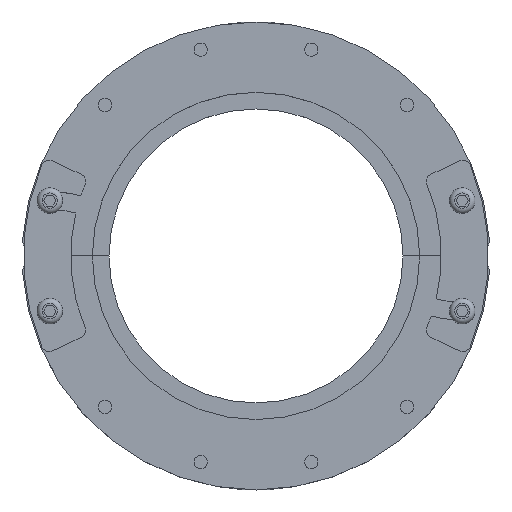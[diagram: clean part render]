
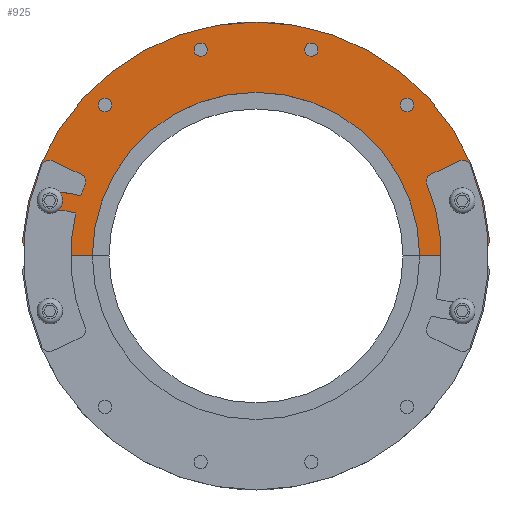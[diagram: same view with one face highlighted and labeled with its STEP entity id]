
A CAD part, top view. The second image highlights one B-rep face of the part: STEP entity #925.
In plain terms, the highlighted planar face has unit normal (0, 0, 1).
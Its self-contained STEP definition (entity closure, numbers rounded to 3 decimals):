
#925=ADVANCED_FACE('',(#2222,#2223,#2224,#2225,#2226,#2227,#2228),#1150,
 .T.);
#1150=PLANE('',#6070);
#1510=LINE('',#9033,#1914);
#1511=LINE('',#9045,#1915);
#1914=VECTOR('',#7455,1.);
#1915=VECTOR('',#7466,1.);
#2222=FACE_BOUND('',#2675,.T.);
#2223=FACE_BOUND('',#2676,.T.);
#2224=FACE_BOUND('',#2677,.T.);
#2225=FACE_BOUND('',#2678,.T.);
#2226=FACE_BOUND('',#2679,.T.);
#2227=FACE_BOUND('',#2680,.T.);
#2228=FACE_BOUND('',#2681,.T.);
#2675=EDGE_LOOP('',(#3845,#3846,#3847,#3848,#3849,#3850,#3851,#3852));
#2676=EDGE_LOOP('',(#3853));
#2677=EDGE_LOOP('',(#3854));
#2678=EDGE_LOOP('',(#3855));
#2679=EDGE_LOOP('',(#3856));
#2680=EDGE_LOOP('',(#3857));
#2681=EDGE_LOOP('',(#3858));
#3845=ORIENTED_EDGE('',*,*,#5171,.T.);
#3846=ORIENTED_EDGE('',*,*,#5172,.T.);
#3847=ORIENTED_EDGE('',*,*,#5173,.T.);
#3848=ORIENTED_EDGE('',*,*,#5174,.T.);
#3849=ORIENTED_EDGE('',*,*,#5175,.T.);
#3850=ORIENTED_EDGE('',*,*,#5176,.T.);
#3851=ORIENTED_EDGE('',*,*,#5177,.T.);
#3852=ORIENTED_EDGE('',*,*,#5178,.T.);
#3853=ORIENTED_EDGE('',*,*,#5179,.T.);
#3854=ORIENTED_EDGE('',*,*,#5180,.T.);
#3855=ORIENTED_EDGE('',*,*,#5181,.T.);
#3856=ORIENTED_EDGE('',*,*,#5182,.T.);
#3857=ORIENTED_EDGE('',*,*,#5183,.T.);
#3858=ORIENTED_EDGE('',*,*,#5184,.T.);
#4531=VERTEX_POINT('',#9031);
#4532=VERTEX_POINT('',#9032);
#4533=VERTEX_POINT('',#9034);
#4534=VERTEX_POINT('',#9036);
#4535=VERTEX_POINT('',#9038);
#4536=VERTEX_POINT('',#9040);
#4537=VERTEX_POINT('',#9042);
#4538=VERTEX_POINT('',#9044);
#4539=VERTEX_POINT('',#9047);
#4540=VERTEX_POINT('',#9049);
#4541=VERTEX_POINT('',#9051);
#4542=VERTEX_POINT('',#9053);
#4543=VERTEX_POINT('',#9055);
#4544=VERTEX_POINT('',#9057);
#5171=EDGE_CURVE('',#4531,#4532,#5525,.T.);
#5172=EDGE_CURVE('',#4532,#4533,#1510,.T.);
#5173=EDGE_CURVE('',#4533,#4534,#5526,.T.);
#5174=EDGE_CURVE('',#4534,#4535,#5527,.T.);
#5175=EDGE_CURVE('',#4535,#4536,#5528,.T.);
#5176=EDGE_CURVE('',#4536,#4537,#5529,.T.);
#5177=EDGE_CURVE('',#4537,#4538,#5530,.T.);
#5178=EDGE_CURVE('',#4538,#4531,#1511,.T.);
#5179=EDGE_CURVE('',#4539,#4539,#5531,.T.);
#5180=EDGE_CURVE('',#4540,#4540,#5532,.T.);
#5181=EDGE_CURVE('',#4541,#4541,#5533,.T.);
#5182=EDGE_CURVE('',#4542,#4542,#5534,.T.);
#5183=EDGE_CURVE('',#4543,#4543,#5535,.T.);
#5184=EDGE_CURVE('',#4544,#4544,#5536,.T.);
#5525=CIRCLE('',#6058,64.);
#5526=CIRCLE('',#6059,21.611);
#5527=CIRCLE('',#6060,5.);
#5528=CIRCLE('',#6061,91.5);
#5529=CIRCLE('',#6062,5.);
#5530=CIRCLE('',#6063,21.611);
#5531=CIRCLE('',#6064,2.6);
#5532=CIRCLE('',#6065,2.6);
#5533=CIRCLE('',#6066,2.6);
#5534=CIRCLE('',#6067,2.6);
#5535=CIRCLE('',#6068,2.6);
#5536=CIRCLE('',#6069,2.6);
#6058=AXIS2_PLACEMENT_3D('',#9030,#7453,#7454);
#6059=AXIS2_PLACEMENT_3D('',#9035,#7456,#7457);
#6060=AXIS2_PLACEMENT_3D('',#9037,#7458,#7459);
#6061=AXIS2_PLACEMENT_3D('',#9039,#7460,#7461);
#6062=AXIS2_PLACEMENT_3D('',#9041,#7462,#7463);
#6063=AXIS2_PLACEMENT_3D('',#9043,#7464,#7465);
#6064=AXIS2_PLACEMENT_3D('',#9046,#7467,#7468);
#6065=AXIS2_PLACEMENT_3D('',#9048,#7469,#7470);
#6066=AXIS2_PLACEMENT_3D('',#9050,#7471,#7472);
#6067=AXIS2_PLACEMENT_3D('',#9052,#7473,#7474);
#6068=AXIS2_PLACEMENT_3D('',#9054,#7475,#7476);
#6069=AXIS2_PLACEMENT_3D('',#9056,#7477,#7478);
#6070=AXIS2_PLACEMENT_3D('',#9058,#7479,#7480);
#7453=DIRECTION('',(0.,0.,-1.));
#7454=DIRECTION('',(-1.,0.,0.));
#7455=DIRECTION('',(1.,0.,0.));
#7456=DIRECTION('',(0.,0.,1.));
#7457=DIRECTION('',(-1.,0.,0.));
#7458=DIRECTION('',(0.,0.,1.));
#7459=DIRECTION('',(1.,0.,0.));
#7460=DIRECTION('',(0.,0.,1.));
#7461=DIRECTION('',(-1.,0.,0.));
#7462=DIRECTION('',(0.,0.,1.));
#7463=DIRECTION('',(-1.,0.,0.));
#7464=DIRECTION('',(0.,0.,1.));
#7465=DIRECTION('',(-1.,0.,0.));
#7466=DIRECTION('',(1.,0.,0.));
#7467=DIRECTION('',(0.,0.,-1.));
#7468=DIRECTION('',(-1.,0.,0.));
#7469=DIRECTION('',(0.,0.,-1.));
#7470=DIRECTION('',(-1.,0.,0.));
#7471=DIRECTION('',(0.,0.,-1.));
#7472=DIRECTION('',(-1.,0.,0.));
#7473=DIRECTION('',(0.,0.,-1.));
#7474=DIRECTION('',(-1.,0.,0.));
#7475=DIRECTION('',(0.,0.,-1.));
#7476=DIRECTION('',(-1.,0.,0.));
#7477=DIRECTION('',(0.,0.,-1.));
#7478=DIRECTION('',(-1.,0.,0.));
#7479=DIRECTION('',(0.,0.,1.));
#7480=DIRECTION('',(-1.,0.,0.));
#9030=CARTESIAN_POINT('',(0.,0.,20.));
#9031=CARTESIAN_POINT('',(-64.,0.,20.));
#9032=CARTESIAN_POINT('',(64.,0.,20.));
#9033=CARTESIAN_POINT('',(0.,0.,20.));
#9034=CARTESIAN_POINT('',(80.655,0.,20.));
#9035=CARTESIAN_POINT('',(80.655,21.611,20.));
#9036=CARTESIAN_POINT('',(87.99,1.283,20.));
#9037=CARTESIAN_POINT('',(86.293,5.986,20.));
#9038=CARTESIAN_POINT('',(91.281,6.332,20.));
#9039=CARTESIAN_POINT('',(0.,0.,20.));
#9040=CARTESIAN_POINT('',(-91.281,6.332,20.));
#9041=CARTESIAN_POINT('',(-86.293,5.986,20.));
#9042=CARTESIAN_POINT('',(-87.99,1.283,20.));
#9043=CARTESIAN_POINT('',(-80.655,21.611,20.));
#9044=CARTESIAN_POINT('',(-80.655,0.,20.));
#9045=CARTESIAN_POINT('',(0.,0.,20.));
#9046=CARTESIAN_POINT('',(-21.611,80.655,20.));
#9047=CARTESIAN_POINT('',(-24.211,80.655,20.));
#9048=CARTESIAN_POINT('',(80.655,21.611,20.));
#9049=CARTESIAN_POINT('',(78.055,21.611,20.));
#9050=CARTESIAN_POINT('',(21.611,80.655,20.));
#9051=CARTESIAN_POINT('',(19.011,80.655,20.));
#9052=CARTESIAN_POINT('',(-80.655,21.611,20.));
#9053=CARTESIAN_POINT('',(-83.255,21.611,20.));
#9054=CARTESIAN_POINT('',(-59.043,59.043,20.));
#9055=CARTESIAN_POINT('',(-61.643,59.043,20.));
#9056=CARTESIAN_POINT('',(59.043,59.043,20.));
#9057=CARTESIAN_POINT('',(56.443,59.043,20.));
#9058=CARTESIAN_POINT('',(0.,0.,20.));
